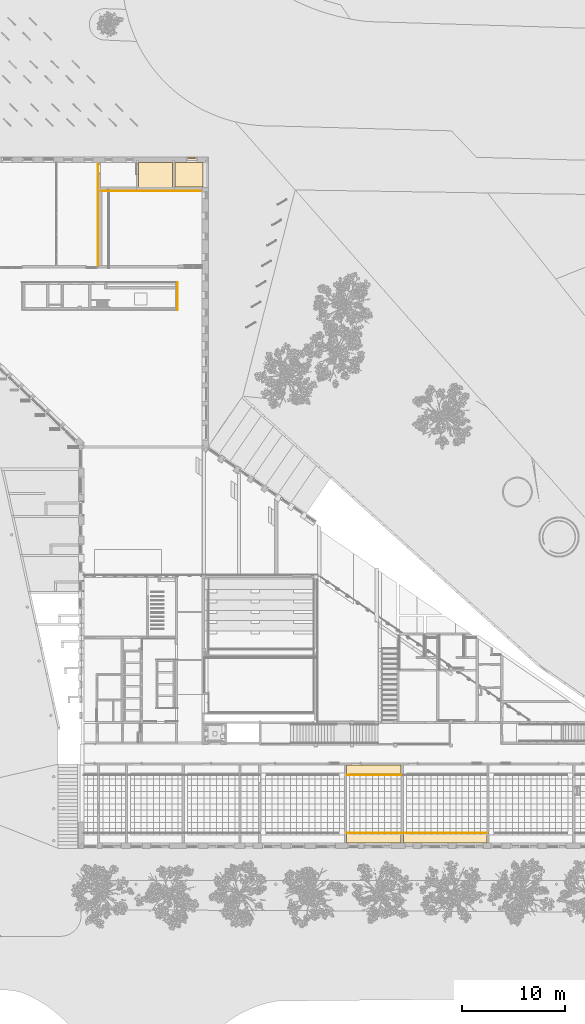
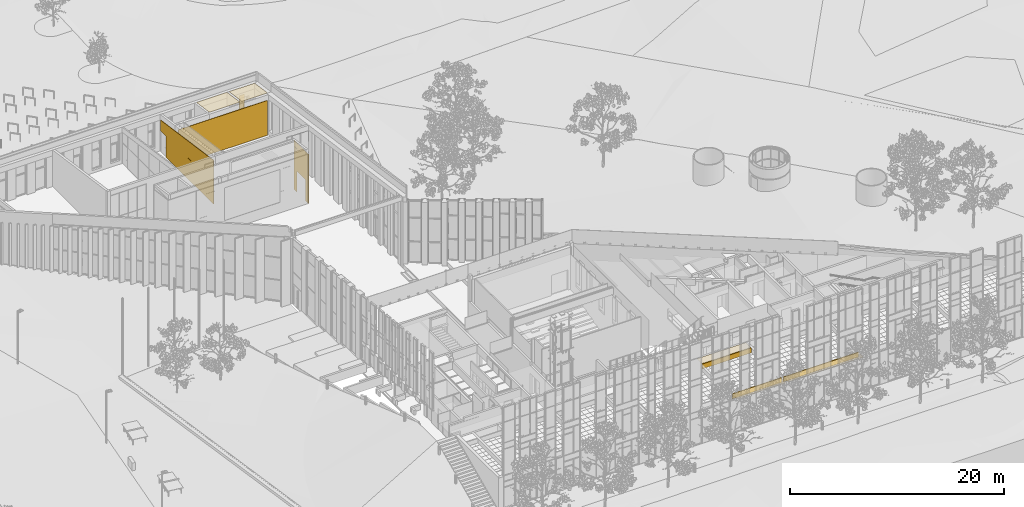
# One storey, part 180 of 246: 12 coverings, 10 openings.
"""IFC2X3 building model written with IfcOpenShell, lengths in millimetres."""

from ifc_helpers import new_model, entity, si_unit, converted_unit, derived_unit, money_unit, direction, frame, origin_with_axes, place, context, subcontext, project, spatial, faceted_brep, material, material_list, type_object, element, save


model = new_model("IFC2X3")

# Units and contexts
model_context = context("Model", 3, precision=0.01, world=origin_with_axes(), true_north=direction((0.0, 1.0)))
body_context = subcontext(model_context, "Body", "Model", "MODEL_VIEW")
ifc_project = project(units=[si_unit("LENGTHUNIT", "METRE", prefix="MILLI"), si_unit("AREAUNIT", "SQUARE_METRE"), si_unit("VOLUMEUNIT", "CUBIC_METRE"), converted_unit("PLANEANGLEUNIT", "DEGREE", entity("IfcPlaneAngleMeasure", 0.0174532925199), si_unit("PLANEANGLEUNIT", "RADIAN"), dimensions=[0, 0, 0, 0, 0, 0, 0]), si_unit("SOLIDANGLEUNIT", "STERADIAN"), money_unit("EUR"), converted_unit("TIMEUNIT", "Year", entity("IfcTimeMeasure", 31556926.0), si_unit("TIMEUNIT", "SECOND"), dimensions=[0, 0, 1, 0, 0, 0, 0]), si_unit("MASSUNIT", "GRAM", prefix="KILO"), si_unit("THERMODYNAMICTEMPERATUREUNIT", "DEGREE_CELSIUS"), si_unit("LUMINOUSINTENSITYUNIT", "LUMEN"), si_unit("ENERGYUNIT", "JOULE", prefix="MEGA"), derived_unit("THERMALCONDUCTANCEUNIT", [(si_unit("POWERUNIT", "WATT"), 1), (si_unit("LENGTHUNIT", "METRE"), -1), (si_unit("THERMODYNAMICTEMPERATUREUNIT", "KELVIN"), -1)]), derived_unit("SPECIFICHEATCAPACITYUNIT", [(si_unit("ENERGYUNIT", "JOULE"), 1), (si_unit("MASSUNIT", "GRAM", prefix="KILO"), -1), (si_unit("THERMODYNAMICTEMPERATUREUNIT", "KELVIN"), -1)]), derived_unit("MASSDENSITYUNIT", [(si_unit("MASSUNIT", "GRAM", prefix="KILO"), 1), (si_unit("VOLUMEUNIT", "CUBIC_METRE"), -1)])], contexts=[model_context])

# Site, building, storey
site_placement = place(None, origin_with_axes())
site = spatial("IfcSite", under=ifc_project, at=site_placement, Name="L.Koidula tn 11b", CompositionType="ELEMENT")
building_placement = place(site_placement, origin_with_axes())
building = spatial("IfcBuilding", under=site, at=building_placement, Name="Rakvere Riigigümnaasium", CompositionType="ELEMENT")
storey_placement = place(building_placement, origin_with_axes())
storey = spatial("IfcBuildingStorey", under=building, at=storey_placement, Name="1.korrus 0,00", CompositionType="ELEMENT", Elevation=0.0)

# Coverings
ifc_material_1 = material(Name="mineraalvill+karkass")
ifc_material_2 = material(Name="SKR-02_Kipsplaat")
ifc_material_list_1 = material_list([ifc_material_1, ifc_material_2])
covering_type_1 = type_object("IfcCoveringType", Name="SA-LV-kips 79", PredefinedType="CEILING")
covering_1_placement = place(storey_placement, frame((61030.0162917, 6435.45437174, 2762.5), z_axis=(0.0, 0.0, 1.0), x_axis=(1.0, 0.0, 0.0)))
element("IfcCovering", 1, at=covering_1_placement, inside=storey, type_object=covering_type_1, material=ifc_material_list_1, Name="L-04 vert", PredefinedType="CEILING", context=body_context, shape_type="Brep", body=[
    faceted_brep([(5299.99864102, 12.5, 562.5), (5299.99864102, 78.5, 562.5), (0.0, 78.5, 562.5), (0.0, 12.5, 562.5), (5299.99864102, 12.5, 0.0), (5299.99864102, 78.5, 0.0), (0.0, 78.5, 0.0), (0.0, 12.5, 0.0)], [[[0, 1, 2, 3]], [[0, 4, 5, 1]], [[1, 5, 6, 2]], [[3, 2, 6, 7]], [[4, 0, 3, 7]], [[5, 4, 7, 6]]]),
    faceted_brep([(5299.99864102, 0.0, 562.5), (5299.99864102, 12.5, 562.5), (0.0, 12.5, 562.5), (0.0, 0.0, 562.5), (5299.99864102, 0.0, 0.0), (5299.99864102, 12.5, 0.0), (0.0, 12.5, 0.0), (0.0, 0.0, 0.0)], [[[0, 1, 2, 3]], [[0, 4, 5, 1]], [[1, 5, 6, 2]], [[3, 2, 6, 7]], [[4, 0, 3, 7]], [[5, 4, 7, 6]]]),
])
covering_2_placement = place(storey_placement, frame((66550.0149327, 6435.45437174, 2762.5), z_axis=(0.0, 0.0, 1.0), x_axis=(1.0, 0.0, 0.0)))
element("IfcCovering", 2, at=covering_2_placement, inside=storey, type_object=covering_type_1, material=ifc_material_list_1, Name="L-04 vert", PredefinedType="CEILING", context=body_context, shape_type="Brep", body=[
    faceted_brep([(8100.00015633, 12.5, 562.5), (8100.00015633, 78.5, 562.5), (0.0, 78.5, 562.5), (0.0, 12.5, 562.5), (8100.00015633, 12.5, 0.0), (8100.00015633, 78.5, 0.0), (0.0, 78.5, 0.0), (0.0, 12.5, 0.0)], [[[0, 1, 2, 3]], [[0, 4, 5, 1]], [[1, 5, 6, 2]], [[3, 2, 6, 7]], [[4, 0, 3, 7]], [[5, 4, 7, 6]]]),
    faceted_brep([(8100.00015633, 0.0, 562.5), (8100.00015633, 12.5, 562.5), (0.0, 12.5, 562.5), (0.0, 0.0, 562.5), (8100.00015633, 0.0, 0.0), (8100.00015633, 12.5, 0.0), (0.0, 12.5, 0.0), (0.0, 0.0, 0.0)], [[[0, 1, 2, 3]], [[0, 4, 5, 1]], [[1, 5, 6, 2]], [[3, 2, 6, 7]], [[4, 0, 3, 7]], [[5, 4, 7, 6]]]),
])
covering_3_placement = place(storey_placement, frame((66330.0149327, 12135.4543717, 2762.5), z_axis=(0.0, 0.0, 1.0), x_axis=(-1.0, 0.0, 0.0)))
element("IfcCovering", 3, at=covering_3_placement, inside=storey, type_object=covering_type_1, material=ifc_material_list_1, Name="L-04 vert", PredefinedType="CEILING", context=body_context, shape_type="Brep", body=[
    faceted_brep([(5299.99864102, 12.5, 562.5), (5299.99864102, 78.5, 562.5), (0.0, 78.5, 562.5), (0.0, 12.5, 562.5), (5299.99864102, 12.5, 0.0), (5299.99864102, 78.5, 0.0), (0.0, 78.5, 0.0), (0.0, 12.5, 0.0)], [[[0, 1, 2, 3]], [[0, 4, 5, 1]], [[1, 5, 6, 2]], [[3, 2, 6, 7]], [[4, 0, 3, 7]], [[5, 4, 7, 6]]]),
    faceted_brep([(5299.99864102, 0.0, 562.5), (5299.99864102, 12.5, 562.5), (0.0, 12.5, 562.5), (0.0, 0.0, 562.5), (5299.99864102, 0.0, 0.0), (5299.99864102, 12.5, 0.0), (0.0, 12.5, 0.0), (0.0, 0.0, 0.0)], [[[0, 1, 2, 3]], [[0, 4, 5, 1]], [[1, 5, 6, 2]], [[3, 2, 6, 7]], [[4, 0, 3, 7]], [[5, 4, 7, 6]]]),
])

# Covering, opening
ifc_material_3 = material(Name="MDF")
covering_type_2 = type_object("IfcCoveringType", Name="MDF 20", PredefinedType="CLADDING")
covering_4_placement = place(storey_placement, frame((44599.9999911, 59940.454628, 0.0), z_axis=(0.0, 0.0, 1.0), x_axis=(0.0, -1.0, 0.0)))
covering_4 = element("IfcCovering", 4, at=covering_4_placement, inside=storey, type_object=covering_type_2, material=ifc_material_3, Name="S-04", PredefinedType="CLADDING", context=body_context, shape_type="Brep", body=[
    faceted_brep([(2200.99997842, 0.0, 2399.0), (2200.99997842, 20.0, 2399.0), (2200.99997842, 20.0, 0.0), (2200.99997842, 0.0, 0.0), (2689.99997842, 20.0, 2399.0), (2689.99997842, 0.0, 2399.0), (2689.99997842, 20.0, 0.0), (2689.99997842, 0.0, 0.0)], [[[0, 1, 2, 3]], [[4, 1, 0, 5]], [[1, 4, 6, 2]], [[3, 2, 6, 7]], [[5, 0, 3, 7]], [[4, 5, 7, 6]]]),
    faceted_brep([(2200.99997842, 0.0, 4949.0), (2200.99997842, 20.0, 4949.0), (2200.99997842, 20.0, 2401.0), (2200.99997842, 0.0, 2401.0), (2689.99997842, 20.0, 4949.0), (2689.99997842, 0.0, 4949.0), (2689.99997842, 20.0, 2401.0), (2689.99997842, 0.0, 2401.0)], [[[0, 1, 2, 3]], [[4, 1, 0, 5]], [[1, 4, 6, 2]], [[3, 2, 6, 7]], [[5, 0, 3, 7]], [[4, 5, 7, 6]]]),
    faceted_brep([(1400.99997842, 0.0, 4949.0), (1400.99997842, 20.0, 4949.0), (1400.99997842, 20.0, 2401.0), (1400.99997842, 0.0, 2401.0), (2198.99997842, 20.0, 4949.0), (2198.99997842, 0.0, 4949.0), (2198.99997842, 20.0, 2401.0), (2198.99997842, 0.0, 2401.0)], [[[0, 1, 2, 3]], [[4, 1, 0, 5]], [[1, 4, 6, 2]], [[3, 2, 6, 7]], [[5, 0, 3, 7]], [[4, 5, 7, 6]]]),
    faceted_brep([(600.999978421, 0.0, 4949.0), (600.999978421, 20.0, 4949.0), (600.999978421, 20.0, 2401.0), (600.999978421, 0.0, 2401.0), (1398.99997842, 20.0, 4949.0), (1398.99997842, 0.0, 4949.0), (1398.99997842, 20.0, 2401.0), (1398.99997842, 0.0, 2401.0)], [[[0, 1, 2, 3]], [[4, 1, 0, 5]], [[1, 4, 6, 2]], [[3, 2, 6, 7]], [[5, 0, 3, 7]], [[4, 5, 7, 6]]]),
    faceted_brep([(0.0, 0.0, 2399.0), (2.85638179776e-08, 20.0, 2399.0), (2.85638179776e-08, 20.0, 0.0), (0.0, 0.0, 0.0), (598.999978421, 20.0, 2399.0), (598.999978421, 0.0, 2399.0), (598.999978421, 20.0, 0.0), (598.999978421, 0.0, 0.0)], [[[0, 1, 2, 3]], [[4, 1, 0, 5]], [[1, 4, 6, 2]], [[6, 7, 3, 2]], [[5, 0, 3, 7]], [[4, 5, 7, 6]]]),
    faceted_brep([(0.0, 0.0, 4949.0), (2.85638179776e-08, 20.0, 4949.0), (2.85638179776e-08, 20.0, 2401.0), (0.0, 0.0, 2401.0), (598.999978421, 20.0, 4949.0), (598.999978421, 0.0, 4949.0), (598.999978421, 20.0, 2401.0), (598.999978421, 0.0, 2401.0)], [[[0, 1, 2, 3]], [[4, 1, 0, 5]], [[1, 4, 6, 2]], [[3, 2, 6, 7]], [[5, 0, 3, 7]], [[4, 5, 7, 6]]]),
    faceted_brep([(598.999978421, 20.0, 4951.0), (2.85638179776e-08, 20.0, 4951.0), (2.85638179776e-08, 20.0, 5632.85676088), (2689.99997842, 20.0, 5632.85676088), (2689.99997842, 20.0, 4951.0), (2200.99997842, 20.0, 4951.0), (2200.99997842, 20.0, 5600.0), (2198.99997842, 20.0, 5600.0), (2198.99997842, 20.0, 4951.0), (1400.99997842, 20.0, 4951.0), (1400.99997842, 20.0, 5600.0), (1398.99997842, 20.0, 5600.0), (1398.99997842, 20.0, 4951.0), (600.999978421, 20.0, 4951.0), (600.999978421, 20.0, 5600.0), (598.999978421, 20.0, 5600.0), (0.0, 0.0, 4951.0), (598.999978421, 0.0, 4951.0), (0.0, 0.0, 5632.85676088), (2689.99997842, 0.0, 5632.85676088), (2689.99997842, 0.0, 4951.0), (2200.99997842, 0.0, 4951.0), (2200.99997842, 0.0, 5600.0), (2198.99997842, 0.0, 5600.0), (2198.99997842, 0.0, 4951.0), (1400.99997842, 0.0, 4951.0), (1400.99997842, 0.0, 5600.0), (1398.99997842, 0.0, 5600.0), (1398.99997842, 0.0, 4951.0), (600.999978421, 0.0, 4951.0), (600.999978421, 0.0, 5600.0), (598.999978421, 0.0, 5600.0)], [[[0, 1, 2, 3, 4, 5, 6, 7, 8, 9, 10, 11, 12, 13, 14, 15]], [[16, 1, 0, 17]], [[1, 16, 18, 2]], [[2, 18, 19, 3]], [[20, 4, 3, 19]], [[21, 5, 4, 20]], [[5, 21, 22, 6]], [[7, 6, 22, 23]], [[24, 8, 7, 23]], [[25, 9, 8, 24]], [[9, 25, 26, 10]], [[11, 10, 26, 27]], [[28, 12, 11, 27]], [[29, 13, 12, 28]], [[13, 29, 30, 14]], [[15, 14, 30, 31]], [[17, 0, 15, 31]], [[16, 17, 31, 30, 29, 28, 27, 26, 25, 24, 23, 22, 21, 20, 19, 18]]]),
])
opening_1_placement = place(covering_4_placement, frame((1399.99995127, 0.0, 0.0), z_axis=(0.0, 0.0, 1.0), x_axis=(1.0, 0.0, 0.0)))
element("IfcOpeningElement", 5, at=opening_1_placement, cuts=covering_4, Name="ava", context=body_context, shape_type="Brep", body=[
    faceted_brep([(-800.0, -20.0, 0.0), (-800.0, -20.0, 2400.0), (-800.0, 40.0, 2400.0), (-800.0, 40.0, 0.0), (800.0, -20.0, 0.0), (800.0, -20.0, 2400.0), (800.0, 40.0, 2400.0), (800.0, 40.0, 0.0)], [[[0, 1, 2, 3]], [[0, 4, 5, 1]], [[1, 5, 6, 2]], [[3, 2, 6, 7]], [[4, 0, 3, 7]], [[5, 4, 7, 6]]]),
])

# Coverings
ifc_material_4 = material(Name="Salto-siseviimistlus-ripplagi")
covering_type_3 = type_object("IfcCoveringType", Name="Salto-siseviimistlus-ripplagi 1", PredefinedType="CLADDING")
covering_5_placement = place(storey_placement, frame((61030.0162917, 12135.4543717, 3325.0), z_axis=(0.0, 0.0, 1.0), x_axis=(1.0, 0.0, 0.0)))
element("IfcCovering", 6, at=covering_5_placement, inside=storey, type_object=covering_type_3, material=ifc_material_4, Name="L-09", PredefinedType="CLADDING", context=body_context, shape_type="Brep", body=[
    faceted_brep([(0.0, 0.0, 0.0), (0.0, 0.0, -1.0), (5299.99864102, 0.0, -1.0), (5299.99864102, 0.0, 0.0), (0.0, 934.993001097, 0.0), (0.0, 934.993001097, -1.0), (5299.99864102, 934.993001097, -1.0), (5299.99864102, 934.993001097, 0.0)], [[[0, 1, 2, 3]], [[4, 5, 1, 0]], [[2, 1, 5, 6]], [[3, 2, 6, 7]], [[4, 0, 3, 7]], [[7, 6, 5, 4]]]),
])
covering_6_placement = place(storey_placement, frame((61030.0162917, 5510.45553887, 3325.0), z_axis=(0.0, 0.0, 1.0), x_axis=(1.0, 0.0, 0.0)))
element("IfcCovering", 7, at=covering_6_placement, inside=storey, type_object=covering_type_3, material=ifc_material_4, Name="L-09", PredefinedType="CLADDING", context=body_context, shape_type="Brep", body=[
    faceted_brep([(0.0, 0.0, 0.0), (0.0, 0.0, -1.0), (5299.99864102, 0.0, -1.0), (5299.99864102, 0.0, 0.0), (0.0, 924.998832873, 0.0), (0.0, 924.998832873, -1.0), (5299.99864102, 924.998832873, -1.0), (5299.99864102, 924.998832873, 0.0)], [[[0, 1, 2, 3]], [[4, 5, 1, 0]], [[2, 1, 5, 6]], [[3, 2, 6, 7]], [[4, 0, 3, 7]], [[7, 6, 5, 4]]]),
])
covering_7_placement = place(storey_placement, frame((66550.0149327, 5510.45553887, 3325.0), z_axis=(0.0, 0.0, 1.0), x_axis=(1.0, 0.0, 0.0)))
element("IfcCovering", 8, at=covering_7_placement, inside=storey, type_object=covering_type_3, material=ifc_material_4, Name="L-09", PredefinedType="CLADDING", context=body_context, shape_type="Brep", body=[
    faceted_brep([(0.0, 0.0, 0.0), (0.0, 0.0, -1.0), (8100.00015633, 0.0, -1.0), (8100.00015633, 0.0, 0.0), (0.0, 924.998832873, 0.0), (0.0, 924.998832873, -1.0), (8100.00015633, 924.998832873, -1.0), (8100.00015633, 924.998832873, 0.0)], [[[0, 1, 2, 3]], [[4, 5, 1, 0]], [[2, 1, 5, 6]], [[3, 2, 6, 7]], [[4, 0, 3, 7]], [[7, 6, 5, 4]]]),
])

# Covering, openings
ifc_material_5 = material(Name="Tolmutõke")
covering_type_4 = type_object("IfcCoveringType", Name="Tolmutõke 1", PredefinedType="CLADDING")
covering_8_placement = place(storey_placement, frame((42930.3506176, 44100.4559269, 8069.50554513), z_axis=(0.0, 0.0, 1.0), x_axis=(1.0, -3.97002862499e-08, 0.0)))
covering_8 = element("IfcCovering", 9, at=covering_8_placement, inside=storey, type_object=covering_type_4, material=ifc_material_5, Name="L-07", PredefinedType="CLADDING", context=body_context, shape_type="Brep", body=[
    faceted_brep([(1409.18399189, 27499.9958351, -3912.81891221), (1409.18408757, 25089.9754304, -3569.82221574), (4169.64837984, 25089.97554, -3569.82223134), (4169.64828416, 27499.9959447, -3912.8189278), (1409.1839915, 27499.9958351, -3913.82898924), (1409.18408742, 25089.97543, -3570.83229273), (4169.64837944, 25089.9755397, -3570.83230834), (4169.64828445, 27499.9959448, -3913.82900486)], [[[0, 1, 2, 3]], [[1, 0, 4, 5]], [[2, 1, 5, 6]], [[3, 2, 6, 7]], [[0, 3, 7, 4]], [[5, 4, 7, 6]]]),
])
opening_2_placement = place(covering_8_placement, frame((-1566.03189625, 11271.2515812, 13103.4783502), z_axis=(0.0, 0.0, 1.0), x_axis=(1.0, 0.0, 0.0)))
element("IfcOpeningElement", 10, at=opening_2_placement, cuts=covering_8, Name="Ava ripplaes", context=body_context, shape_type="Brep", body=[
    faceted_brep([(-599.999952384, -1199.38596784, -7981.22413545), (600.000047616, -1199.3859202, -7981.22413545), (600.000047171, -1188.18248557, -7901.50755591), (-599.999952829, -1188.18253321, -7901.50755591), (-599.999999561, -11.0642853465, -8148.2318566), (600.000000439, -11.0642377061, -8148.2318566), (599.999999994, 0.139196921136, -8068.51527706), (-600.000000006, 0.139149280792, -8068.51527706)], [[[0, 1, 2, 3]], [[0, 4, 5, 1]], [[1, 5, 6, 2]], [[3, 2, 6, 7]], [[4, 0, 3, 7]], [[5, 4, 7, 6]]]),
])
opening_3_placement = place(covering_8_placement, frame((-5327.68647234, 8884.3984775, 13438.9286567), z_axis=(0.0, 0.0, 1.0), x_axis=(1.0, 0.0, 0.0)))
element("IfcOpeningElement", 11, at=opening_3_placement, cuts=covering_8, Name="Ava ripplaes", context=body_context, shape_type="Brep", body=[
    faceted_brep([(600.000047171, -1188.18248557, -7901.50755591), (-599.999952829, -1188.18253321, -7901.50755591), (-599.999952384, -1199.38596784, -7981.22413545), (600.000047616, -1199.3859202, -7981.22413545), (599.999999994, 0.139196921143, -8068.51527706), (-600.000000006, 0.139149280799, -8068.51527706), (-599.999999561, -11.0642853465, -8148.2318566), (600.000000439, -11.0642377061, -8148.2318566)], [[[0, 1, 2, 3]], [[0, 4, 5, 1]], [[1, 5, 6, 2]], [[3, 2, 6, 7]], [[4, 0, 3, 7]], [[5, 4, 7, 6]]]),
])
opening_4_placement = place(covering_8_placement, frame((-11439.2817039, 21650.1991211, 11644.8123445), z_axis=(0.0, 0.0, 1.0), x_axis=(1.0, 0.0, 0.0)))
element("IfcOpeningElement", 12, at=opening_4_placement, cuts=covering_8, Name="Ava ripplaes", context=body_context, shape_type="Brep", body=[
    faceted_brep([(600.000047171, -1188.18248557, -7901.50755591), (-599.999952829, -1188.18253321, -7901.50755591), (-599.999952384, -1199.38596784, -7981.22413545), (600.000047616, -1199.3859202, -7981.22413545), (599.999999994, 0.139196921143, -8068.51527706), (-600.000000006, 0.139149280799, -8068.51527706), (-599.999999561, -11.0642853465, -8148.2318566), (600.000000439, -11.0642377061, -8148.2318566)], [[[0, 1, 2, 3]], [[0, 4, 5, 1]], [[1, 5, 6, 2]], [[3, 2, 6, 7]], [[4, 0, 3, 7]], [[5, 4, 7, 6]]]),
])
opening_5_placement = place(covering_8_placement, frame((-14498.8404953, 24037.051954, 11309.362038), z_axis=(0.0, 0.0, 1.0), x_axis=(1.0, 0.0, 0.0)))
element("IfcOpeningElement", 13, at=opening_5_placement, cuts=covering_8, Name="Ava ripplaes", context=body_context, shape_type="Brep", body=[
    faceted_brep([(-599.999952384, -1199.38596784, -7981.22413545), (600.000047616, -1199.3859202, -7981.22413545), (600.000047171, -1188.18248557, -7901.50755591), (-599.999952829, -1188.18253321, -7901.50755591), (-599.999999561, -11.0642853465, -8148.2318566), (600.000000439, -11.0642377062, -8148.2318566), (599.999999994, 0.139196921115, -8068.51527706), (-600.000000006, 0.139149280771, -8068.51527706)], [[[0, 1, 2, 3]], [[0, 4, 5, 1]], [[1, 5, 6, 2]], [[3, 2, 6, 7]], [[4, 0, 3, 7]], [[5, 4, 7, 6]]]),
])

covering_9_placement = place(storey_placement, frame((39410.8497694, 44100.4559269, 8069.50554513), z_axis=(0.0, 0.0, 1.0), x_axis=(1.0, -3.97002862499e-08, 0.0)))
covering_9 = element("IfcCovering", 14, at=covering_9_placement, inside=storey, type_object=covering_type_4, material=ifc_material_5, Name="L-07", PredefinedType="CLADDING", context=body_context, shape_type="Brep", body=[
    faceted_brep([(1409.18399189, 27499.9958351, -3912.81891221), (1409.18408762, 25088.6754304, -3569.63719834), (4708.76837959, 25088.6755614, -3569.63721699), (4708.76828386, 27499.9959661, -3912.81893085), (1409.1839915, 27499.9958348, -3913.8289892), (1409.18408742, 25088.67543, -3570.64727533), (4708.7683793, 25088.6755609, -3570.64729396), (4708.7682843, 27499.9959657, -3913.82900783)], [[[0, 1, 2, 3]], [[1, 0, 4, 5]], [[2, 1, 5, 6]], [[3, 2, 6, 7]], [[0, 3, 7, 4]], [[5, 4, 7, 6]]]),
])
opening_6_placement = place(covering_9_placement, frame((-1566.03189625, 11271.2515812, 13103.4783502), z_axis=(0.0, 0.0, 1.0), x_axis=(1.0, 0.0, 0.0)))
element("IfcOpeningElement", 15, at=opening_6_placement, cuts=covering_9, Name="Ava ripplaes", context=body_context, shape_type="Brep", body=[
    faceted_brep([(-599.999952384, -1199.38596784, -7981.22413545), (600.000047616, -1199.3859202, -7981.22413545), (600.000047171, -1188.18248557, -7901.50755591), (-599.999952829, -1188.18253321, -7901.50755591), (-599.999999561, -11.0642853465, -8148.2318566), (600.000000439, -11.0642377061, -8148.2318566), (599.999999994, 0.139196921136, -8068.51527706), (-600.000000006, 0.139149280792, -8068.51527706)], [[[0, 1, 2, 3]], [[0, 4, 5, 1]], [[1, 5, 6, 2]], [[3, 2, 6, 7]], [[4, 0, 3, 7]], [[5, 4, 7, 6]]]),
])
opening_7_placement = place(covering_9_placement, frame((-5327.68647234, 8884.3984775, 13438.9286567), z_axis=(0.0, 0.0, 1.0), x_axis=(1.0, 0.0, 0.0)))
element("IfcOpeningElement", 16, at=opening_7_placement, cuts=covering_9, Name="Ava ripplaes", context=body_context, shape_type="Brep", body=[
    faceted_brep([(600.000047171, -1188.18248557, -7901.50755591), (-599.999952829, -1188.18253321, -7901.50755591), (-599.999952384, -1199.38596784, -7981.22413545), (600.000047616, -1199.3859202, -7981.22413545), (599.999999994, 0.139196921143, -8068.51527706), (-600.000000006, 0.139149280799, -8068.51527706), (-599.999999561, -11.0642853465, -8148.2318566), (600.000000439, -11.0642377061, -8148.2318566)], [[[0, 1, 2, 3]], [[0, 4, 5, 1]], [[1, 5, 6, 2]], [[3, 2, 6, 7]], [[4, 0, 3, 7]], [[5, 4, 7, 6]]]),
])
opening_8_placement = place(covering_9_placement, frame((-11439.2817039, 21650.1991211, 11644.8123445), z_axis=(0.0, 0.0, 1.0), x_axis=(1.0, 0.0, 0.0)))
element("IfcOpeningElement", 17, at=opening_8_placement, cuts=covering_9, Name="Ava ripplaes", context=body_context, shape_type="Brep", body=[
    faceted_brep([(600.000047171, -1188.18248557, -7901.50755591), (-599.999952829, -1188.18253321, -7901.50755591), (-599.999952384, -1199.38596784, -7981.22413545), (600.000047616, -1199.3859202, -7981.22413545), (599.999999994, 0.139196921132, -8068.51527706), (-600.000000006, 0.139149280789, -8068.51527706), (-599.999999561, -11.0642853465, -8148.2318566), (600.000000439, -11.0642377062, -8148.2318566)], [[[0, 1, 2, 3]], [[0, 4, 5, 1]], [[1, 5, 6, 2]], [[3, 2, 6, 7]], [[4, 0, 3, 7]], [[5, 4, 7, 6]]]),
])
opening_9_placement = place(covering_9_placement, frame((-14498.8404953, 24037.051954, 11309.362038), z_axis=(0.0, 0.0, 1.0), x_axis=(1.0, 0.0, 0.0)))
element("IfcOpeningElement", 18, at=opening_9_placement, cuts=covering_9, Name="Ava ripplaes", context=body_context, shape_type="Brep", body=[
    faceted_brep([(-599.999952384, -1199.38596784, -7981.22413545), (600.000047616, -1199.3859202, -7981.22413545), (600.000047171, -1188.18248557, -7901.50755591), (-599.999952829, -1188.18253321, -7901.50755591), (-599.999999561, -11.0642853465, -8148.2318566), (600.000000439, -11.0642377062, -8148.2318566), (599.999999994, 0.139196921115, -8068.51527706), (-600.000000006, 0.139149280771, -8068.51527706)], [[[0, 1, 2, 3]], [[0, 4, 5, 1]], [[1, 5, 6, 2]], [[3, 2, 6, 7]], [[4, 0, 3, 7]], [[5, 4, 7, 6]]]),
])

# Covering, opening
ifc_material_6 = material(Name="Klaasvill")
ifc_material_list_2 = material_list([ifc_material_3, ifc_material_6])
covering_type_5 = type_object("IfcCoveringType", Name="SA - Akustiline sein 57", PredefinedType="CLADDING")
covering_10_placement = place(storey_placement, frame((36919.9971542, 61600.4546496, 0.0), z_axis=(0.0, 0.0, 1.0), x_axis=(0.0, 1.0, 0.0)))
covering_10 = element("IfcCovering", 19, at=covering_10_placement, inside=storey, type_object=covering_type_5, material=ifc_material_list_2, Name="S-03", PredefinedType="CLADDING", context=body_context, shape_type="Brep", body=[
    faceted_brep([(9849.99703599, 50.0, 2400.0), (9849.99703599, 57.0, 2400.0), (9850.1362073, 57.0, 2400.0), (9850.1362073, 41.0, 2400.0), (8850.13620719, 41.0, 2400.0), (8850.13620719, 50.0, 2400.0), (9849.99703599, 50.0, 2401.0), (9849.99703599, 57.0, 2401.0), (8851.99733239, 57.0, 2401.0), (8851.99733239, 57.0, 3753.41638412), (9850.13620735, 57.0, 3611.36018573), (9850.13620735, 41.0, 3611.36018564), (0.0, 41.0, 5013.24216649), (0.0, 41.0, 0.0), (8850.13620719, 41.0, 0.0), (8850.13620719, 50.0, 0.0), (8851.99733239, 50.0, 2401.0), (8849.99733239, 50.0, 0.0), (8849.99733239, 50.0, 2399.0), (7852.99762879, 50.0, 2399.0), (7852.99762879, 50.0, 0.0), (7850.99762879, 50.0, 0.0), (7850.99762879, 50.0, 2399.0), (6853.99792519, 50.0, 2399.0), (6853.99792519, 50.0, 0.0), (6851.99792519, 50.0, 0.0), (6851.99792519, 50.0, 2399.0), (5854.99822159, 50.0, 2399.0), (5854.99822159, 50.0, 0.0), (5852.99822159, 50.0, 0.0), (5852.99822159, 50.0, 2399.0), (4855.99851799, 50.0, 2399.0), (4855.99851799, 50.0, 0.0), (4853.99851799, 50.0, 0.0), (4853.99851799, 50.0, 2399.0), (3856.99881439, 50.0, 2399.0), (3856.99881439, 50.0, 0.0), (3854.99881439, 50.0, 0.0), (3854.99881439, 50.0, 2399.0), (2857.9991108, 50.0, 2399.0), (2857.9991108, 50.0, 0.0), (2855.9991108, 50.0, 0.0), (2855.9991108, 50.0, 2399.0), (1858.9994072, 50.0, 2399.0), (1858.9994072, 50.0, 0.0), (1856.9994072, 50.0, 0.0), (1856.9994072, 50.0, 2399.0), (859.999703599, 50.0, 2399.0), (859.999703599, 50.0, 0.0), (857.999703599, 50.0, 0.0), (857.999703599, 50.0, 2399.0), (0.0, 50.0, 2399.0), (0.0, 50.0, 2401.0), (857.999703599, 50.0, 2401.0), (857.999703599, 50.0, 4891.13072577), (859.999703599, 50.0, 4890.84608362), (859.999703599, 50.0, 2401.0), (1856.9994072, 50.0, 2401.0), (1856.9994072, 50.0, 4748.95201333), (1858.9994072, 50.0, 4748.66737118), (1858.9994072, 50.0, 2401.0), (2855.9991108, 50.0, 2401.0), (2855.9991108, 50.0, 4606.77330089), (2857.9991108, 50.0, 4606.48865874), (2857.9991108, 50.0, 2401.0), (3854.99881439, 50.0, 2401.0), (3854.99881439, 50.0, 4464.59458844), (3856.99881439, 50.0, 4464.30994629), (3856.99881439, 50.0, 2401.0), (4853.99851799, 50.0, 2401.0), (4853.99851799, 50.0, 4322.415876), (4855.99851799, 50.0, 4322.13123385), (4855.99851799, 50.0, 2401.0), (5852.99822159, 50.0, 2401.0), (5852.99822159, 50.0, 4180.23716356), (5854.99822159, 50.0, 4179.95252141), (5854.99822159, 50.0, 2401.0), (6851.99792519, 50.0, 2401.0), (6851.99792519, 50.0, 4038.05845112), (6853.99792519, 50.0, 4037.77380896), (6853.99792519, 50.0, 2401.0), (7850.99762879, 50.0, 2401.0), (7850.99762879, 50.0, 3895.87973867), (7852.99762879, 50.0, 3895.59509652), (7852.99762879, 50.0, 2401.0), (8849.99733239, 50.0, 2401.0), (8849.99733239, 50.0, 3753.70102623), (8851.99733239, 50.0, 3753.41638408), (8849.99733239, 57.0, 3753.70102627), (7852.99762879, 57.0, 3895.59509656), (7850.99762879, 57.0, 3895.87973871), (6853.99792519, 57.0, 4037.773809), (6851.99792519, 57.0, 4038.05845115), (5854.99822159, 57.0, 4179.95252145), (5852.99822159, 57.0, 4180.2371636), (4855.99851799, 57.0, 4322.13123389), (4853.99851799, 57.0, 4322.41587604), (3856.99881439, 57.0, 4464.30994633), (3854.99881439, 57.0, 4464.59458848), (2857.9991108, 57.0, 4606.48865878), (2855.9991108, 57.0, 4606.77330093), (1858.9994072, 57.0, 4748.66737122), (1856.9994072, 57.0, 4748.95201337), (859.999703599, 57.0, 4890.84608366), (857.999703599, 57.0, 4891.13072581), (0.0, 57.0, 5013.24216658), (0.0, 57.0, 2399.0), (0.0, 57.0, 0.0), (0.0, 57.0, 2401.0), (857.999703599, 57.0, 0.0), (859.999703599, 57.0, 0.0), (1856.9994072, 57.0, 0.0), (1858.9994072, 57.0, 0.0), (2855.9991108, 57.0, 0.0), (2857.9991108, 57.0, 0.0), (3854.99881439, 57.0, 0.0), (3856.99881439, 57.0, 0.0), (4853.99851799, 57.0, 0.0), (4855.99851799, 57.0, 0.0), (5852.99822159, 57.0, 0.0), (5854.99822159, 57.0, 0.0), (6851.99792519, 57.0, 0.0), (6853.99792519, 57.0, 0.0), (7850.99762879, 57.0, 0.0), (7852.99762879, 57.0, 0.0), (8849.99733239, 57.0, 0.0), (8849.99733239, 57.0, 2399.0), (7852.99762879, 57.0, 2399.0), (7850.99762879, 57.0, 2399.0), (6853.99792519, 57.0, 2399.0), (6851.99792519, 57.0, 2399.0), (5854.99822159, 57.0, 2399.0), (5852.99822159, 57.0, 2399.0), (4855.99851799, 57.0, 2399.0), (4853.99851799, 57.0, 2399.0), (3856.99881439, 57.0, 2399.0), (3854.99881439, 57.0, 2399.0), (2857.9991108, 57.0, 2399.0), (2855.9991108, 57.0, 2399.0), (1858.9994072, 57.0, 2399.0), (1856.9994072, 57.0, 2399.0), (859.999703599, 57.0, 2399.0), (857.999703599, 57.0, 2399.0), (857.999703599, 57.0, 2401.0), (859.999703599, 57.0, 2401.0), (1856.9994072, 57.0, 2401.0), (1858.9994072, 57.0, 2401.0), (2855.9991108, 57.0, 2401.0), (2857.9991108, 57.0, 2401.0), (3854.99881439, 57.0, 2401.0), (3856.99881439, 57.0, 2401.0), (4853.99851799, 57.0, 2401.0), (4855.99851799, 57.0, 2401.0), (5852.99822159, 57.0, 2401.0), (5854.99822159, 57.0, 2401.0), (6851.99792519, 57.0, 2401.0), (6853.99792519, 57.0, 2401.0), (7850.99762879, 57.0, 2401.0), (7852.99762879, 57.0, 2401.0), (8849.99733239, 57.0, 2401.0)], [[[0, 1, 2, 3, 4, 5]], [[1, 0, 6, 7]], [[7, 8, 9, 10, 2, 1]], [[2, 10, 11, 3]], [[3, 11, 12, 13, 14, 4]], [[15, 5, 4, 14]], [[16, 6, 0, 5, 15, 17, 18, 19, 20, 21, 22, 23, 24, 25, 26, 27, 28, 29, 30, 31, 32, 33, 34, 35, 36, 37, 38, 39, 40, 41, 42, 43, 44, 45, 46, 47, 48, 49, 50, 51, 52, 53, 54, 55, 56, 57, 58, 59, 60, 61, 62, 63, 64, 65, 66, 67, 68, 69, 70, 71, 72, 73, 74, 75, 76, 77, 78, 79, 80, 81, 82, 83, 84, 85, 86, 87]], [[16, 8, 7, 6]], [[8, 16, 87, 9]], [[86, 88, 89, 83, 82, 90, 91, 79, 78, 92, 93, 75, 74, 94, 95, 71, 70, 96, 97, 67, 66, 98, 99, 63, 62, 100, 101, 59, 58, 102, 103, 55, 54, 104, 105, 12, 11, 10, 9, 87]], [[51, 106, 107, 13, 12, 105, 108, 52]], [[17, 15, 14, 13, 107, 109, 49, 48, 110, 111, 45, 44, 112, 113, 41, 40, 114, 115, 37, 36, 116, 117, 33, 32, 118, 119, 29, 28, 120, 121, 25, 24, 122, 123, 21, 20, 124, 125]], [[126, 18, 17, 125]], [[18, 126, 127, 19]], [[19, 127, 124, 20]], [[128, 22, 21, 123]], [[22, 128, 129, 23]], [[23, 129, 122, 24]], [[130, 26, 25, 121]], [[26, 130, 131, 27]], [[27, 131, 120, 28]], [[132, 30, 29, 119]], [[30, 132, 133, 31]], [[31, 133, 118, 32]], [[134, 34, 33, 117]], [[34, 134, 135, 35]], [[35, 135, 116, 36]], [[136, 38, 37, 115]], [[38, 136, 137, 39]], [[39, 137, 114, 40]], [[138, 42, 41, 113]], [[42, 138, 139, 43]], [[43, 139, 112, 44]], [[140, 46, 45, 111]], [[46, 140, 141, 47]], [[47, 141, 110, 48]], [[142, 50, 49, 109]], [[50, 142, 106, 51]], [[143, 53, 52, 108]], [[53, 143, 104, 54]], [[144, 56, 55, 103]], [[145, 57, 56, 144]], [[57, 145, 102, 58]], [[146, 60, 59, 101]], [[147, 61, 60, 146]], [[61, 147, 100, 62]], [[148, 64, 63, 99]], [[149, 65, 64, 148]], [[65, 149, 98, 66]], [[150, 68, 67, 97]], [[151, 69, 68, 150]], [[69, 151, 96, 70]], [[152, 72, 71, 95]], [[153, 73, 72, 152]], [[73, 153, 94, 74]], [[154, 76, 75, 93]], [[155, 77, 76, 154]], [[77, 155, 92, 78]], [[156, 80, 79, 91]], [[157, 81, 80, 156]], [[81, 157, 90, 82]], [[158, 84, 83, 89]], [[159, 85, 84, 158]], [[85, 159, 88, 86]], [[159, 158, 89, 88]], [[157, 156, 91, 90]], [[155, 154, 93, 92]], [[153, 152, 95, 94]], [[151, 150, 97, 96]], [[149, 148, 99, 98]], [[147, 146, 101, 100]], [[145, 144, 103, 102]], [[143, 108, 105, 104]], [[106, 142, 109, 107]], [[141, 140, 111, 110]], [[139, 138, 113, 112]], [[137, 136, 115, 114]], [[135, 134, 117, 116]], [[133, 132, 119, 118]], [[131, 130, 121, 120]], [[129, 128, 123, 122]], [[127, 126, 125, 124]]]),
    faceted_brep([(9850.13620735, 41.0, 3611.36018564), (9850.13620735, 5.94970046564e-05, 3611.36018541), (9850.1362073, 0.0, 2400.0), (9850.1362073, 41.0, 2400.0), (-6.0111212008e-05, 5.94970046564e-05, 5013.24217482), (0.0, 41.0, 5013.24216649), (0.0, 0.0, 0.0), (8850.13620719, 0.0, 0.0), (8850.13620719, 0.0, 2400.0), (8850.13620719, 41.0, 2400.0), (8850.13620719, 41.0, 0.0), (0.0, 41.0, 0.0)], [[[0, 1, 2, 3]], [[4, 1, 0, 5]], [[1, 4, 6, 7, 8, 2]], [[2, 8, 9, 3]], [[5, 0, 3, 9, 10, 11]], [[4, 5, 11, 6]], [[7, 6, 11, 10]], [[7, 10, 9, 8]]]),
])
opening_10_placement = place(covering_10_placement, frame((9350.13620725, 0.0, 0.0), z_axis=(0.0, 0.0, 1.0), x_axis=(1.0, 0.0, 0.0)))
element("IfcOpeningElement", 20, at=opening_10_placement, cuts=covering_10, Name="ava", context=body_context, shape_type="Brep", body=[
    faceted_brep([(500.000000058, -57.0, 2400.0), (500.000000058, -57.0, 0.0), (500.000000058, 50.0, 0.0), (500.000000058, 50.0, 2400.0), (-500.000000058, -57.0, 2400.0), (-500.000000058, -57.0, 0.0), (-500.000000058, 50.0, 0.0), (-500.000000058, 50.0, 2400.0)], [[[0, 1, 2, 3]], [[0, 4, 5, 1]], [[1, 5, 6, 2]], [[3, 2, 6, 7]], [[4, 0, 3, 7]], [[5, 4, 7, 6]]]),
    faceted_brep([(500.000000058, 157.0, 0.0), (500.000000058, 157.0, 2400.0), (500.000000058, 50.0, 2400.0), (500.000000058, 50.0, 0.0), (-500.000000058, 157.0, 0.0), (-500.000000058, 157.0, 2400.0), (-500.000000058, 50.0, 2400.0), (-500.000000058, 50.0, 0.0)], [[[0, 1, 2, 3]], [[0, 4, 5, 1]], [[1, 5, 6, 2]], [[3, 2, 6, 7]], [[4, 0, 3, 7]], [[5, 4, 7, 6]]]),
])

# Coverings
covering_11_placement = place(storey_placement, frame((46849.9999935, 68845.4313013, 0.0), z_axis=(0.0, 0.0, 1.0), x_axis=(-1.0, 0.0, 0.0)))
element("IfcCovering", 21, at=covering_11_placement, inside=storey, type_object=covering_type_5, material=ifc_material_list_2, Name="S-03", PredefinedType="CLADDING", context=body_context, shape_type="Brep", body=[
    faceted_brep([(9595.00283929, 41.0, 3971.92559595), (9595.00283929, 57.0, 3971.92559595), (0.0, 57.0, 3971.92559595), (0.0, 41.0, 3971.92559595), (9595.00283929, 41.0, 0.0), (9595.00283929, 57.0, 0.0), (0.0, 57.0, 0.0), (0.0, 41.0, 0.0)], [[[0, 1, 2, 3]], [[0, 4, 5, 1]], [[1, 5, 6, 2]], [[3, 2, 6, 7]], [[4, 0, 3, 7]], [[5, 4, 7, 6]]]),
    faceted_brep([(9595.00283929, 0.0, 3971.92559595), (9595.00283929, 41.0, 3971.92559595), (0.0, 41.0, 3971.92559595), (0.0, 0.0, 3971.92559595), (9595.00283929, 0.0, 0.0), (9595.00283929, 41.0, 0.0), (0.0, 41.0, 0.0), (0.0, 0.0, 0.0)], [[[0, 1, 2, 3]], [[0, 4, 5, 1]], [[1, 5, 6, 2]], [[3, 2, 6, 7]], [[4, 0, 3, 7]], [[5, 4, 7, 6]]]),
])
ifc_material_7 = material(Name="Puit-fassaad")
covering_type_6 = type_object("IfcCoveringType", Name="Puit-fassaad 84", PredefinedType="CLADDING")
covering_12_placement = place(storey_placement, frame((45699.9999935, 72030.4516838, 750.0), z_axis=(0.0, 0.0, 1.0), x_axis=(1.0, 0.0, 0.0)))
element("IfcCovering", 22, at=covering_12_placement, inside=storey, type_object=covering_type_6, material=ifc_material_7, Name="Välisuksele kinnitatud laudis", PredefinedType="CLADDING", context=body_context, shape_type="Brep", body=[
    faceted_brep([(0.0, 0.0, 2171.74748598), (575.0, 0.0, 2171.74748598), (575.0, 84.0, 2171.74748598), (0.0, 84.0, 2171.74748598), (0.0, 0.0, 0.0), (575.0, 0.0, 0.0), (575.0, 84.0, 0.0), (0.0, 84.0, 0.0)], [[[0, 1, 2, 3]], [[4, 5, 1, 0]], [[2, 1, 5, 6]], [[3, 2, 6, 7]], [[4, 0, 3, 7]], [[7, 6, 5, 4]]]),
])

save(model, "model.ifc")
